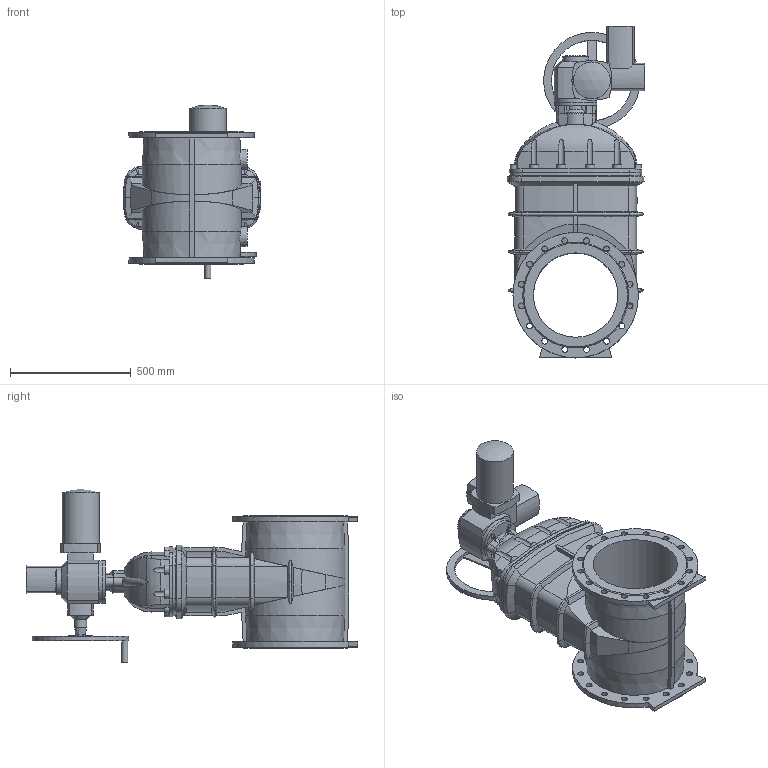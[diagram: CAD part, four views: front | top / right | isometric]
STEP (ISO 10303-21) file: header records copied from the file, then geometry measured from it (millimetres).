
FILE_DESCRIPTION (( 'STEP AP203' ), '1' );
FILE_NAME ('O_15_72_DN350_00_step with AUMA.STEP', '2015-06-11T07:45:23', ( '' ), ( '' ), 'SwSTEP 2.0', 'SolidWorks 2012', '' );
FILE_SCHEMA (( 'CONFIG_CONTROL_DESIGN' ));
Length unit declared in the file: millimetre
Products named in the file (1): O_15_72_DN350_00_step with AUMA
Bounding box: 569.37 x 1376 x 721 mm (x, y, z)
Volume: 103413543.4 mm3; surface area: 3454865.6 mm2
Topology: 1 solids, 1 shells, 531 faces, 1490 edges, 953 vertices
Faces by surface type: cylinder 195, plane 167, cone 74, bspline 66, torus 28, sphere 1
Full cylindrical faces by diameter (mm): 12 x4, 18 x4, 24.5 x32, 25 x1, 49.792 x1, 85 x1, 106 x1, 153 x1, 175 x2, 334 x1, 350 x1, 400 x1, 520 x2
Entity records: 20761 total; most frequent: CARTESIAN_POINT 8272, ORIENTED_EDGE 2756, DIRECTION 2356, EDGE_CURVE 1378, AXIS2_PLACEMENT_3D 984, VERTEX_POINT 900, EDGE_LOOP 652, FACE_OUTER_BOUND 583
